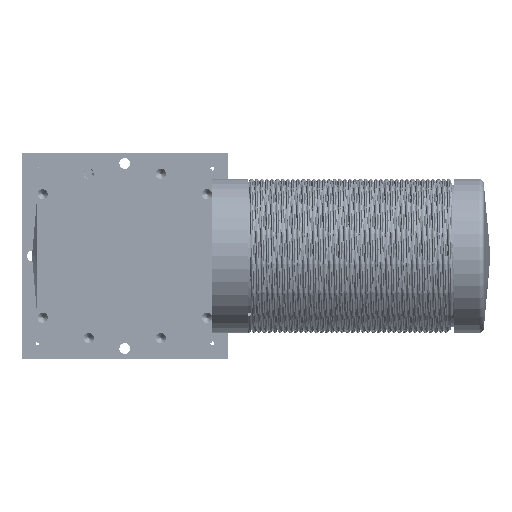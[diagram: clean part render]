
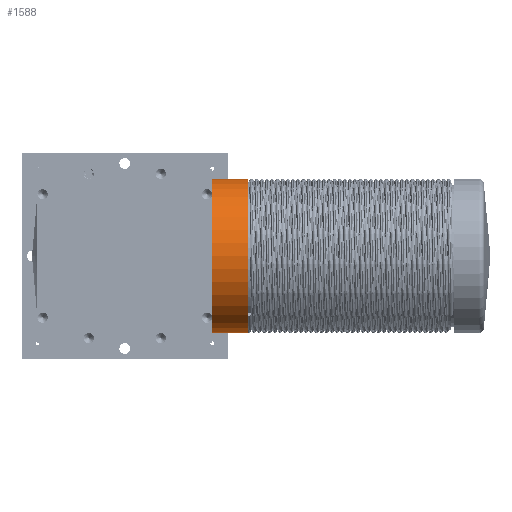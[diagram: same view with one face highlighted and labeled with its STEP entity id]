
A CAD part, left-side view. The second image highlights one B-rep face of the part: STEP entity #1588.
In plain terms, the highlighted cylindrical face has radius 15 mm (diameter 30 mm), a partial arc.
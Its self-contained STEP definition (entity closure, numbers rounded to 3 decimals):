
#1588 = ADVANCED_FACE ( 'NONE', ( #28144 ), #28116, .T. ) ;
#11842 = ORIENTED_EDGE ( 'NONE', *, *, #22150, .T. ) ;
#11853 = ORIENTED_EDGE ( 'NONE', *, *, #22181, .F. ) ;
#11860 = ORIENTED_EDGE ( 'NONE', *, *, #22170, .T. ) ;
#11862 = ORIENTED_EDGE ( 'NONE', *, *, #22131, .T. ) ;
#11878 = ORIENTED_EDGE ( 'NONE', *, *, #22184, .T. ) ;
#11944 = ORIENTED_EDGE ( 'NONE', *, *, #22125, .F. ) ;
#20870 = EDGE_LOOP ( 'NONE', ( #11944, #11860, #11842, #11878, #11862, #11853 ) ) ;
#22125 = EDGE_CURVE ( 'NONE', #26071, #26100, #49364, .T. ) ;
#22131 = EDGE_CURVE ( 'NONE', #26104, #26099, #49338, .T. ) ;
#22150 = EDGE_CURVE ( 'NONE', #26024, #26121, #48880, .T. ) ;
#22170 = EDGE_CURVE ( 'NONE', #26071, #26024, #48916, .T. ) ;
#22181 = EDGE_CURVE ( 'NONE', #26100, #26099, #48898, .T. ) ;
#22184 = EDGE_CURVE ( 'NONE', #26121, #26104, #48901, .T. ) ;
#22760 = AXIS2_PLACEMENT_3D ( 'NONE', #32664, #32688, #32689 ) ;
#26024 = VERTEX_POINT ( 'NONE', #52092 ) ;
#26071 = VERTEX_POINT ( 'NONE', #52163 ) ;
#26099 = VERTEX_POINT ( 'NONE', #52157 ) ;
#26100 = VERTEX_POINT ( 'NONE', #52158 ) ;
#26104 = VERTEX_POINT ( 'NONE', #52272 ) ;
#26121 = VERTEX_POINT ( 'NONE', #52232 ) ;
#28116 = CYLINDRICAL_SURFACE ( 'NONE', #22760, 15. ) ;
#28144 = FACE_OUTER_BOUND ( 'NONE', #20870, .T. ) ;
#30634 = AXIS2_PLACEMENT_3D ( 'NONE', #48268, #48271, #48228 ) ;
#30685 = AXIS2_PLACEMENT_3D ( 'NONE', #48458, #48451, #48450 ) ;
#32664 = CARTESIAN_POINT ( 'NONE',  ( 0., 0., 0. ) ) ;
#32688 = DIRECTION ( 'NONE',  ( 0., -1., 0. ) ) ;
#32689 = DIRECTION ( 'NONE',  ( 0., 0., -1. ) ) ;
#48161 = CARTESIAN_POINT ( 'NONE',  ( 0., 0., 15. ) ) ;
#48163 = DIRECTION ( 'NONE',  ( 0., -1., 0. ) ) ;
#48189 = CARTESIAN_POINT ( 'NONE',  ( 0., 0., -15. ) ) ;
#48223 = DIRECTION ( 'NONE',  ( 0., -1., 0. ) ) ;
#48228 = DIRECTION ( 'NONE',  ( 0., 0., -1. ) ) ;
#48268 = CARTESIAN_POINT ( 'NONE',  ( 0., 69.975, 0. ) ) ;
#48271 = DIRECTION ( 'NONE',  ( 0., -1., 0. ) ) ;
#48330 = CARTESIAN_POINT ( 'NONE',  ( 0., 0., 15. ) ) ;
#48427 = DIRECTION ( 'NONE',  ( 0., 1., 0. ) ) ;
#48449 = CARTESIAN_POINT ( 'NONE',  ( 0., 0., -15. ) ) ;
#48450 = DIRECTION ( 'NONE',  ( 0., 0., -1. ) ) ;
#48451 = DIRECTION ( 'NONE',  ( 0., -1., 0. ) ) ;
#48458 = CARTESIAN_POINT ( 'NONE',  ( 0., 34.975, 0. ) ) ;
#48462 = DIRECTION ( 'NONE',  ( 0., -1., 0. ) ) ;
#48880 = CIRCLE ( 'NONE', #30634, 15. ) ;
#48893 = VECTOR ( 'NONE', #48427, 1000. ) ;
#48898 = CIRCLE ( 'NONE', #30685, 15. ) ;
#48901 = LINE ( 'NONE', #48449, #48960 ) ;
#48916 = LINE ( 'NONE', #48330, #48893 ) ;
#48960 = VECTOR ( 'NONE', #48462, 1000. ) ;
#49338 = LINE ( 'NONE', #48189, #49354 ) ;
#49353 = VECTOR ( 'NONE', #48163, 1000. ) ;
#49354 = VECTOR ( 'NONE', #48223, 1000. ) ;
#49364 = LINE ( 'NONE', #48161, #49353 ) ;
#52092 = CARTESIAN_POINT ( 'NONE',  ( 0., 69.975, 15. ) ) ;
#52157 = CARTESIAN_POINT ( 'NONE',  ( 0., 34.975, -15. ) ) ;
#52158 = CARTESIAN_POINT ( 'NONE',  ( 0., 34.975, 15. ) ) ;
#52163 = CARTESIAN_POINT ( 'NONE',  ( 0., 41.975, 15. ) ) ;
#52232 = CARTESIAN_POINT ( 'NONE',  ( 0., 69.975, -15. ) ) ;
#52272 = CARTESIAN_POINT ( 'NONE',  ( 0., 41.975, -15. ) ) ;
